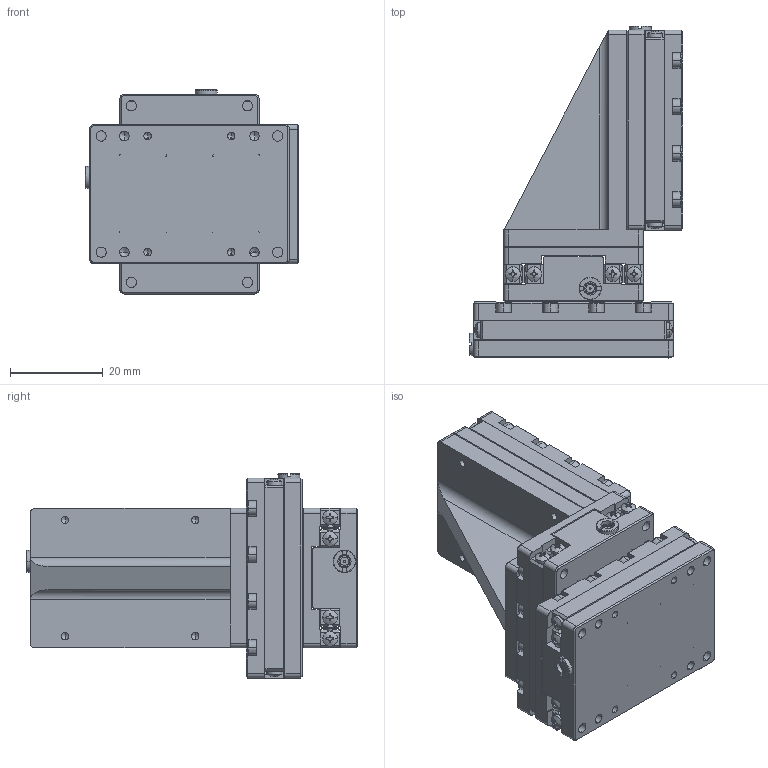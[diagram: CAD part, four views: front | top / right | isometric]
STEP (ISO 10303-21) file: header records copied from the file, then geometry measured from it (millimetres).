
FILE_DESCRIPTION (( 'STEP AP214' ), '1' );
FILE_NAME ('N56.XYZ20K-B1开环三维直线压电马达3D图（25.04.29）.STEP', '2025-08-01T01:25:44', ( '微软用户' ), ( '微软中国' ), 'SwSTEP 2.0', 'SolidWorks 2016', '' );
FILE_SCHEMA (( 'AUTOMOTIVE_DESIGN' ));
Length unit declared in the file: millimetre
Products named in the file (1): N56.XYZ20K-B1开环三维直线压电马达3D图（25.04.29）
Bounding box: 45.9 x 71.4 x 43.9 mm (x, y, z)
Volume: 42922.7 mm3; surface area: 46702.5 mm2
Topology: 160 solids, 160 shells, 3763 faces, 9404 edges, 6014 vertices
Faces by surface type: plane 1914, cylinder 1363, cone 342, bspline 144
Entity records: 115098 total; most frequent: CARTESIAN_POINT 23386, DIRECTION 19053, ORIENTED_EDGE 18292, EDGE_CURVE 9146, AXIS2_PLACEMENT_3D 6975, VERTEX_POINT 6014, LINE 5103, VECTOR 5103
